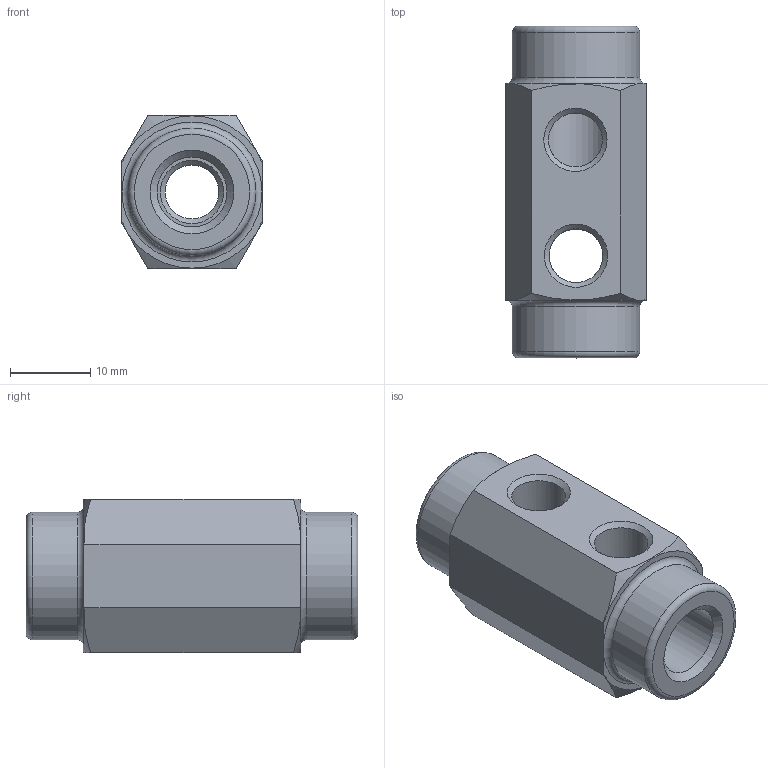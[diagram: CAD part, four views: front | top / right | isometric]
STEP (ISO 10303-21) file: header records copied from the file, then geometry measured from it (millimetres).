
FILE_DESCRIPTION(/* description */ (''),/* implementation_level */ '2;1');
FILE_NAME(/* name */ 'C:/Users/drich/Desktop/16H-RL v1.step',/* time_stamp */ '2020-01-10T21:54:00-06:00',/* author */ (''),/* organization */ (''),/* preprocessor_version */ 'ST-DEVELOPER v18',/* originating_system */ 'Autodesk Translation Framework v8.12.0.6',/* authorisation */ '');
FILE_SCHEMA (('AUTOMOTIVE_DESIGN { 1 0 10303 214 3 1 1 }'));
Length unit declared in the file: inch
Products named in the file (2): 16H-RL; 16H-RL_1
Assembly tree (1 placements, depth 2):
  16H-RL
    16H-RL_1
Bounding box: 17.42 x 41.27 x 19.05 mm (x, y, z)
Volume: 7896 mm3; surface area: 4037.2 mm2
Topology: 1 solids, 1 shells, 40 faces, 112 edges, 76 vertices
Faces by surface type: plane 13, cylinder 12, cone 11, torus 4
Full cylindrical faces by diameter (mm): 6.697 x4, 8.707 x2, 15.875 x2
Entity records: 1494 total; most frequent: CARTESIAN_POINT 397, DIRECTION 226, ORIENTED_EDGE 224, EDGE_CURVE 112, AXIS2_PLACEMENT_3D 97, VERTEX_POINT 76, CIRCLE 54, EDGE_LOOP 50
